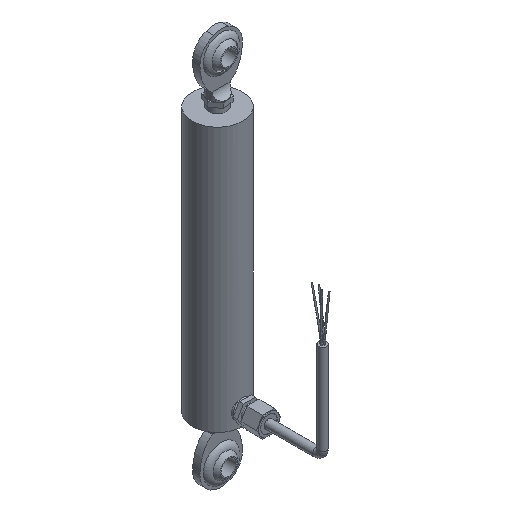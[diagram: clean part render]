
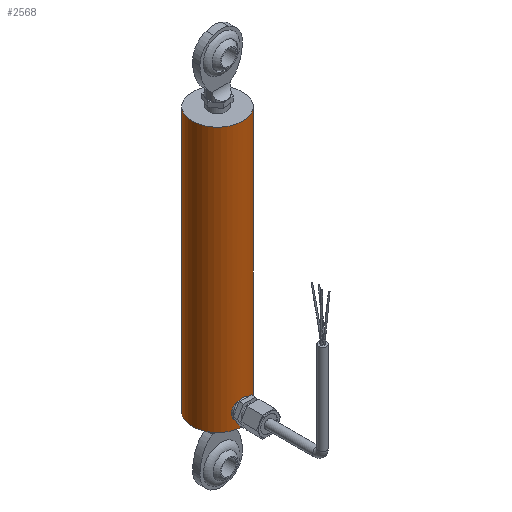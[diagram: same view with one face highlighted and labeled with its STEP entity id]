
A CAD part, isometric view. The second image highlights one B-rep face of the part: STEP entity #2568.
In plain terms, the highlighted cylindrical face has radius 13.335 mm (diameter 26.67 mm), a full revolution.
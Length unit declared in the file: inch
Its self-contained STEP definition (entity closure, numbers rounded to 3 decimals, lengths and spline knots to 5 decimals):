
#101=B_SPLINE_CURVE_WITH_KNOTS('',3,(#6590,#6591,#6592,#6593,#6594,#6595,
#6596,#6597,#6598,#6599),.UNSPECIFIED.,.F.,.F.,(4,2,2,2,4),(0.,0.19357,
0.38715,0.58056,0.77398),.UNSPECIFIED.);
#102=B_SPLINE_CURVE_WITH_KNOTS('',3,(#6600,#6601,#6602,#6603,#6604,#6605,
#6606,#6607,#6608,#6609),.UNSPECIFIED.,.F.,.F.,(4,2,2,2,4),(2.32194,
2.51535,2.70877,2.90234,3.09591),
 .UNSPECIFIED.);
#103=B_SPLINE_CURVE_WITH_KNOTS('',3,(#6611,#6612,#6613,#6614,#6615,#6616,
#6617,#6618,#6619,#6620,#6621,#6622,#6623,#6624,#6625,#6626,#6627,#6628),
 .UNSPECIFIED.,.F.,.F.,(4,2,2,2,2,2,2,2,4),(0.77398,0.96739,
1.16081,1.35438,1.54796,1.74153,1.93511,
2.12852,2.32194),.UNSPECIFIED.);
#160=CYLINDRICAL_SURFACE('',#2977,0.525);
#204=FACE_BOUND('',#593,.T.);
#275=CIRCLE('',#2978,0.525);
#276=CIRCLE('',#2979,0.525);
#424=FACE_OUTER_BOUND('',#592,.T.);
#592=EDGE_LOOP('',(#1910,#1911,#1912,#1913));
#593=EDGE_LOOP('',(#1914,#1915,#1916));
#779=LINE('',#6634,#924);
#924=VECTOR('',#3516,0.525);
#1096=VERTEX_POINT('',#6583);
#1097=VERTEX_POINT('',#6585);
#1098=VERTEX_POINT('',#6589);
#1099=VERTEX_POINT('',#6631);
#1100=VERTEX_POINT('',#6633);
#1388=EDGE_CURVE('',#1098,#1096,#101,.T.);
#1389=EDGE_CURVE('',#1097,#1098,#102,.T.);
#1390=EDGE_CURVE('',#1096,#1097,#103,.T.);
#1391=EDGE_CURVE('',#1099,#1099,#275,.T.);
#1392=EDGE_CURVE('',#1099,#1100,#779,.T.);
#1393=EDGE_CURVE('',#1100,#1100,#276,.T.);
#1910=ORIENTED_EDGE('',*,*,#1391,.F.);
#1911=ORIENTED_EDGE('',*,*,#1392,.T.);
#1912=ORIENTED_EDGE('',*,*,#1393,.T.);
#1913=ORIENTED_EDGE('',*,*,#1392,.F.);
#1914=ORIENTED_EDGE('',*,*,#1388,.T.);
#1915=ORIENTED_EDGE('',*,*,#1390,.T.);
#1916=ORIENTED_EDGE('',*,*,#1389,.T.);
#2568=ADVANCED_FACE('',(#424,#204),#160,.T.);
#2977=AXIS2_PLACEMENT_3D('',#6630,#3512,#3513);
#2978=AXIS2_PLACEMENT_3D('',#6632,#3514,#3515);
#2979=AXIS2_PLACEMENT_3D('',#6635,#3517,#3518);
#3512=DIRECTION('center_axis',(0.,0.,
1.));
#3513=DIRECTION('ref_axis',(-1.,0.,0.));
#3514=DIRECTION('center_axis',(0.,0.,
1.));
#3515=DIRECTION('ref_axis',(-1.,0.,0.));
#3516=DIRECTION('',(0.,0.,-1.));
#3517=DIRECTION('center_axis',(0.,0.,
1.));
#3518=DIRECTION('ref_axis',(-1.,0.,0.));
#6583=CARTESIAN_POINT('',(0.,-0.525,0.11847));
#6585=CARTESIAN_POINT('',(0.,-0.525,0.51847));
#6589=CARTESIAN_POINT('',(0.2,-0.48541,0.31847));
#6590=CARTESIAN_POINT('Ctrl Pts',(0.2,-0.48541,0.31847));
#6591=CARTESIAN_POINT('Ctrl Pts',(0.2,-0.48541,0.29307));
#6592=CARTESIAN_POINT('Ctrl Pts',(0.19487,-0.48762,
0.26617));
#6593=CARTESIAN_POINT('Ctrl Pts',(0.17439,-0.49531,
0.21699));
#6594=CARTESIAN_POINT('Ctrl Pts',(0.15904,-0.50066,
0.19467));
#6595=CARTESIAN_POINT('Ctrl Pts',(0.12381,-0.51052,
0.15944));
#6596=CARTESIAN_POINT('Ctrl Pts',(0.10149,-0.5157,
0.14409));
#6597=CARTESIAN_POINT('Ctrl Pts',(0.05229,-0.52298,
0.1236));
#6598=CARTESIAN_POINT('Ctrl Pts',(0.02538,-0.525,0.11847));
#6599=CARTESIAN_POINT('Ctrl Pts',(0.,-0.525,0.11847));
#6600=CARTESIAN_POINT('Ctrl Pts',(0.,-0.525,0.51847));
#6601=CARTESIAN_POINT('Ctrl Pts',(0.02538,-0.525,0.51847));
#6602=CARTESIAN_POINT('Ctrl Pts',(0.05229,-0.52298,
0.51335));
#6603=CARTESIAN_POINT('Ctrl Pts',(0.10149,-0.5157,
0.49285));
#6604=CARTESIAN_POINT('Ctrl Pts',(0.12381,-0.51052,
0.4775));
#6605=CARTESIAN_POINT('Ctrl Pts',(0.15904,-0.50066,
0.44227));
#6606=CARTESIAN_POINT('Ctrl Pts',(0.17439,-0.49531,
0.41996));
#6607=CARTESIAN_POINT('Ctrl Pts',(0.19487,-0.48762,
0.37077));
#6608=CARTESIAN_POINT('Ctrl Pts',(0.2,-0.48541,0.34388));
#6609=CARTESIAN_POINT('Ctrl Pts',(0.2,-0.48541,0.31847));
#6611=CARTESIAN_POINT('Ctrl Pts',(0.,-0.525,0.11847));
#6612=CARTESIAN_POINT('Ctrl Pts',(-0.02538,-0.525,0.11847));
#6613=CARTESIAN_POINT('Ctrl Pts',(-0.05229,-0.52298,
0.1236));
#6614=CARTESIAN_POINT('Ctrl Pts',(-0.10149,-0.5157,
0.14409));
#6615=CARTESIAN_POINT('Ctrl Pts',(-0.12381,-0.51052,
0.15944));
#6616=CARTESIAN_POINT('Ctrl Pts',(-0.15904,-0.50066,
0.19467));
#6617=CARTESIAN_POINT('Ctrl Pts',(-0.17439,-0.49531,
0.21699));
#6618=CARTESIAN_POINT('Ctrl Pts',(-0.19487,-0.48762,
0.26617));
#6619=CARTESIAN_POINT('Ctrl Pts',(-0.2,-0.48541,0.29307));
#6620=CARTESIAN_POINT('Ctrl Pts',(-0.2,-0.48541,0.34388));
#6621=CARTESIAN_POINT('Ctrl Pts',(-0.19487,-0.48762,
0.37077));
#6622=CARTESIAN_POINT('Ctrl Pts',(-0.17439,-0.49531,
0.41996));
#6623=CARTESIAN_POINT('Ctrl Pts',(-0.15904,-0.50066,
0.44227));
#6624=CARTESIAN_POINT('Ctrl Pts',(-0.12381,-0.51052,
0.4775));
#6625=CARTESIAN_POINT('Ctrl Pts',(-0.10149,-0.5157,
0.49285));
#6626=CARTESIAN_POINT('Ctrl Pts',(-0.05229,-0.52298,
0.51335));
#6627=CARTESIAN_POINT('Ctrl Pts',(-0.02538,-0.525,0.51847));
#6628=CARTESIAN_POINT('Ctrl Pts',(0.,-0.525,0.51847));
#6630=CARTESIAN_POINT('Origin',(0.,0.,0.));
#6631=CARTESIAN_POINT('',(0.525,0.,5.5));
#6632=CARTESIAN_POINT('Origin',(0.,0.,
5.5));
#6633=CARTESIAN_POINT('',(0.525,0.,0.));
#6634=CARTESIAN_POINT('',(0.525,0.,0.));
#6635=CARTESIAN_POINT('Origin',(0.,0.,0.));
